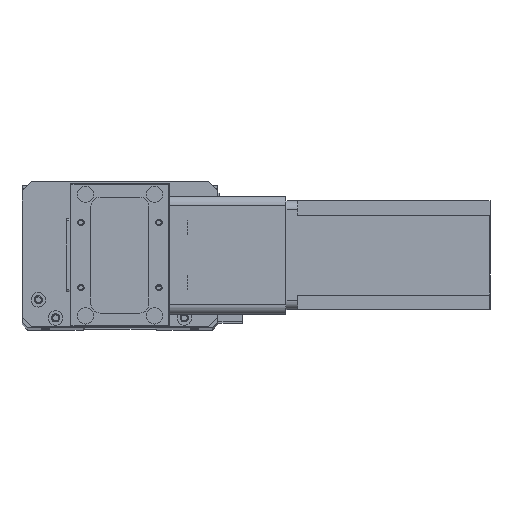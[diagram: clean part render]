
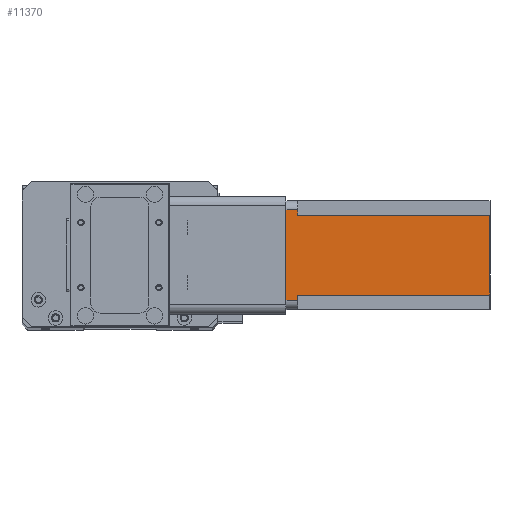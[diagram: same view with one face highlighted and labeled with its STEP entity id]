
A CAD part, top view. The second image highlights one B-rep face of the part: STEP entity #11370.
In plain terms, the highlighted planar face has unit normal (0, 0, 1) as drawn and (0, 1, 0) by its records, which use the part's own axes.
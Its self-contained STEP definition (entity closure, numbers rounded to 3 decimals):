
#293 = VERTEX_POINT ( 'NONE', #15108 ) ;
#927 = CARTESIAN_POINT ( 'NONE',  ( 0., 60., -112.5 ) ) ;
#1953 = CARTESIAN_POINT ( 'NONE',  ( 52., 60., -6.5 ) ) ;
#1999 = ORIENTED_EDGE ( 'NONE', *, *, #7719, .T. ) ;
#2789 = ORIENTED_EDGE ( 'NONE', *, *, #12485, .F. ) ;
#2971 = PLANE ( 'NONE',  #19944 ) ;
#3061 = CARTESIAN_POINT ( 'NONE',  ( 8., 60., -6.5 ) ) ;
#3262 = VECTOR ( 'NONE', #22271, 1000. ) ;
#3889 = ORIENTED_EDGE ( 'NONE', *, *, #11786, .F. ) ;
#3895 = CARTESIAN_POINT ( 'NONE',  ( 8., 60., -6.5 ) ) ;
#4189 = VERTEX_POINT ( 'NONE', #14438 ) ;
#4197 = EDGE_CURVE ( 'NONE', #5093, #20095, #15435, .T. ) ;
#4245 = VECTOR ( 'NONE', #16068, 1000. ) ;
#4615 = CARTESIAN_POINT ( 'NONE',  ( 55., 60., -6.5 ) ) ;
#4997 = DIRECTION ( 'NONE',  ( 0., 1., 0. ) ) ;
#5093 = VERTEX_POINT ( 'NONE', #15366 ) ;
#5385 = VERTEX_POINT ( 'NONE', #6627 ) ;
#5526 = EDGE_LOOP ( 'NONE', ( #12571, #1999, #3889, #8829, #25373, #2789, #19011, #7657 ) ) ;
#5584 = LINE ( 'NONE', #3895, #10960 ) ;
#5763 = DIRECTION ( 'NONE',  ( -1., 0., 0. ) ) ;
#5791 = CARTESIAN_POINT ( 'NONE',  ( 5., 60., -112.5 ) ) ;
#5943 = VECTOR ( 'NONE', #5763, 1000. ) ;
#5953 = CARTESIAN_POINT ( 'NONE',  ( 8., 60., -112.5 ) ) ;
#6627 = CARTESIAN_POINT ( 'NONE',  ( 5., 60., 0. ) ) ;
#6831 = CARTESIAN_POINT ( 'NONE',  ( 55., 60., -112.5 ) ) ;
#6943 = DIRECTION ( 'NONE',  ( 0., 0., 1. ) ) ;
#7028 = LINE ( 'NONE', #5791, #22508 ) ;
#7657 = ORIENTED_EDGE ( 'NONE', *, *, #12377, .T. ) ;
#7719 = EDGE_CURVE ( 'NONE', #293, #24496, #10765, .T. ) ;
#8829 = ORIENTED_EDGE ( 'NONE', *, *, #17396, .F. ) ;
#8892 = DIRECTION ( 'NONE',  ( 0., 0., -1. ) ) ;
#10071 = VECTOR ( 'NONE', #22469, 1000. ) ;
#10765 = LINE ( 'NONE', #6831, #20857 ) ;
#10960 = VECTOR ( 'NONE', #20031, 1000. ) ;
#11302 = LINE ( 'NONE', #19793, #5943 ) ;
#11370 = ADVANCED_FACE ( 'NONE', ( #23193 ), #2971, .T. ) ;
#11786 = EDGE_CURVE ( 'NONE', #21554, #24496, #14970, .T. ) ;
#11972 = VECTOR ( 'NONE', #6943, 1000. ) ;
#12377 = EDGE_CURVE ( 'NONE', #4189, #5385, #7028, .T. ) ;
#12485 = EDGE_CURVE ( 'NONE', #22869, #20095, #24103, .T. ) ;
#12571 = ORIENTED_EDGE ( 'NONE', *, *, #23855, .F. ) ;
#14438 = CARTESIAN_POINT ( 'NONE',  ( 5., 60., -6.5 ) ) ;
#14970 = LINE ( 'NONE', #1953, #4245 ) ;
#15108 = CARTESIAN_POINT ( 'NONE',  ( 55., 60., 0. ) ) ;
#15366 = CARTESIAN_POINT ( 'NONE',  ( 52., 60., -112.5 ) ) ;
#15435 = LINE ( 'NONE', #18422, #10071 ) ;
#16068 = DIRECTION ( 'NONE',  ( 1., 0., 0. ) ) ;
#16286 = CARTESIAN_POINT ( 'NONE',  ( 8., 60., -112.5 ) ) ;
#17334 = LINE ( 'NONE', #23098, #11972 ) ;
#17396 = EDGE_CURVE ( 'NONE', #5093, #21554, #17334, .T. ) ;
#18422 = CARTESIAN_POINT ( 'NONE',  ( 0., 60., -112.5 ) ) ;
#19011 = ORIENTED_EDGE ( 'NONE', *, *, #19441, .T. ) ;
#19126 = DIRECTION ( 'NONE',  ( 0., 0., 1. ) ) ;
#19441 = EDGE_CURVE ( 'NONE', #22869, #4189, #5584, .T. ) ;
#19793 = CARTESIAN_POINT ( 'NONE',  ( 0., 60., 0. ) ) ;
#19944 = AXIS2_PLACEMENT_3D ( 'NONE', #927, #4997, #19126 ) ;
#20031 = DIRECTION ( 'NONE',  ( -1., 0., 0. ) ) ;
#20095 = VERTEX_POINT ( 'NONE', #5953 ) ;
#20857 = VECTOR ( 'NONE', #8892, 1000. ) ;
#21554 = VERTEX_POINT ( 'NONE', #23060 ) ;
#22271 = DIRECTION ( 'NONE',  ( 0., 0., -1. ) ) ;
#22469 = DIRECTION ( 'NONE',  ( -1., 0., 0. ) ) ;
#22508 = VECTOR ( 'NONE', #25981, 1000. ) ;
#22869 = VERTEX_POINT ( 'NONE', #3061 ) ;
#23060 = CARTESIAN_POINT ( 'NONE',  ( 52., 60., -6.5 ) ) ;
#23098 = CARTESIAN_POINT ( 'NONE',  ( 52., 60., -112.5 ) ) ;
#23193 = FACE_OUTER_BOUND ( 'NONE', #5526, .T. ) ;
#23855 = EDGE_CURVE ( 'NONE', #293, #5385, #11302, .T. ) ;
#24103 = LINE ( 'NONE', #16286, #3262 ) ;
#24496 = VERTEX_POINT ( 'NONE', #4615 ) ;
#25373 = ORIENTED_EDGE ( 'NONE', *, *, #4197, .T. ) ;
#25981 = DIRECTION ( 'NONE',  ( 0., 0., 1. ) ) ;
